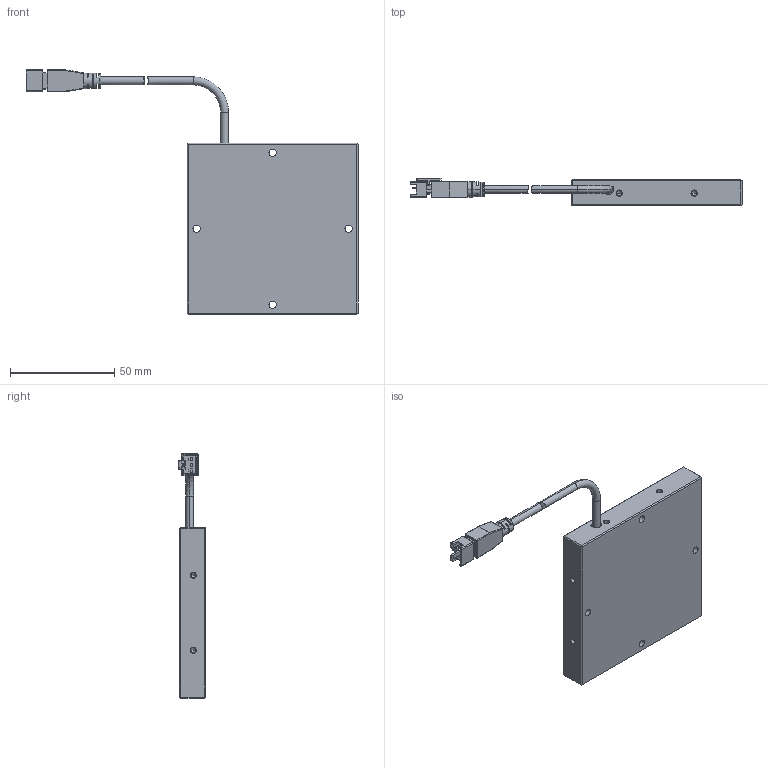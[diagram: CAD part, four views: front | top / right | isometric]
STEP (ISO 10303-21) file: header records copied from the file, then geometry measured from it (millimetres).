
FILE_DESCRIPTION((''),'2;1');
FILE_NAME('MV-LBFH-50-50_ASM','2019-09-19T',('Administrator'),(''),'PRO/ENGINEER BY PARAMETRIC TECHNOLOGY CORPORATION, 2010100','PRO/ENGINEER BY PARAMETRIC TECHNOLOGY CORPORATION, 2010100','');
FILE_SCHEMA(('CONFIG_CONTROL_DESIGN'));
Length unit declared in the file: millimetre
Products named in the file (5): ZHOUQUAN1____1; LINE_TOU_____1; XIAN_____1; ASSY_____ASM_1_ASM; MV-LBFH-50-50_ASM
Assembly tree (4 placements, depth 3):
  MV-LBFH-50-50_ASM
    ZHOUQUAN1____1
    ASSY_____ASM_1_ASM
      LINE_TOU_____1
      XIAN_____1
Bounding box: 159.43 x 13.15 x 117.25 mm (x, y, z)
Volume: 82600.3 mm3; surface area: 22090.5 mm2
Topology: 3 solids, 11 shells, 352 faces, 912 edges, 575 vertices
Faces by surface type: plane 174, cylinder 120, cone 31, torus 10, bspline 8, sphere 8, extrusion 1
Entity records: 11098 total; most frequent: CARTESIAN_POINT 2349, DIRECTION 1854, ORIENTED_EDGE 1744, EDGE_CURVE 888, AXIS2_PLACEMENT_3D 661, VERTEX_POINT 575, VECTOR 532, LINE 531
